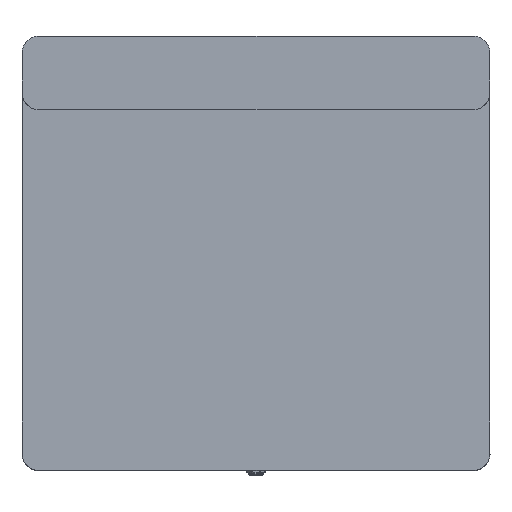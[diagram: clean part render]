
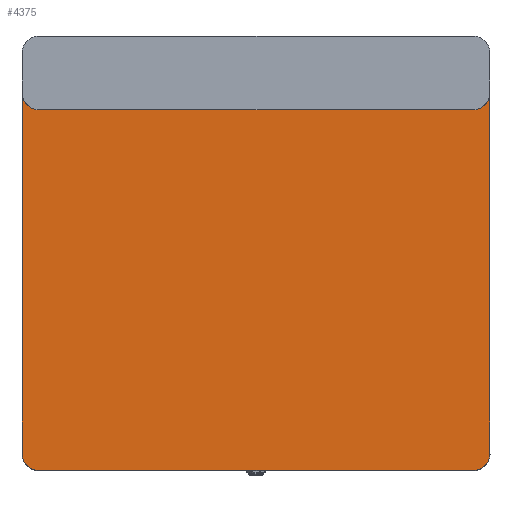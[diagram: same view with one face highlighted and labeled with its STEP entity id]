
A CAD part, front view. The second image highlights one B-rep face of the part: STEP entity #4375.
In plain terms, the highlighted planar face has unit normal (0, -1, 0) as drawn and (0, 0, 1) by its records, which use the part's own axes.
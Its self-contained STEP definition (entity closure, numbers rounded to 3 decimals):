
#239=CIRCLE('',#4804,24.5);
#240=CIRCLE('',#4806,25.);
#241=CIRCLE('',#4807,24.5);
#242=CIRCLE('',#4808,25.);
#453=FACE_OUTER_BOUND('',#703,.T.);
#703=EDGE_LOOP('',(#3026,#3027,#3028,#3029,#3030,#3031,#3032,#3033));
#1005=LINE('',#6553,#1457);
#1024=LINE('',#6612,#1476);
#1025=LINE('',#6616,#1477);
#1026=LINE('',#6619,#1478);
#1457=VECTOR('',#5243,1000.);
#1476=VECTOR('',#5306,1000.);
#1477=VECTOR('',#5309,1000.);
#1478=VECTOR('',#5312,1000.);
#1917=VERTEX_POINT('',#6550);
#1918=VERTEX_POINT('',#6552);
#1934=VERTEX_POINT('',#6606);
#1935=VERTEX_POINT('',#6610);
#1936=VERTEX_POINT('',#6611);
#1937=VERTEX_POINT('',#6613);
#1938=VERTEX_POINT('',#6615);
#1939=VERTEX_POINT('',#6617);
#2337=EDGE_CURVE('',#1917,#1918,#1005,.T.);
#2364=EDGE_CURVE('',#1918,#1934,#239,.T.);
#2366=EDGE_CURVE('',#1935,#1936,#1024,.T.);
#2367=EDGE_CURVE('',#1936,#1937,#240,.T.);
#2368=EDGE_CURVE('',#1937,#1938,#1025,.T.);
#2369=EDGE_CURVE('',#1938,#1939,#241,.T.);
#2370=EDGE_CURVE('',#1939,#1934,#1026,.T.);
#2371=EDGE_CURVE('',#1917,#1935,#242,.T.);
#3026=ORIENTED_EDGE('',*,*,#2366,.T.);
#3027=ORIENTED_EDGE('',*,*,#2367,.T.);
#3028=ORIENTED_EDGE('',*,*,#2368,.T.);
#3029=ORIENTED_EDGE('',*,*,#2369,.T.);
#3030=ORIENTED_EDGE('',*,*,#2370,.T.);
#3031=ORIENTED_EDGE('',*,*,#2364,.F.);
#3032=ORIENTED_EDGE('',*,*,#2337,.F.);
#3033=ORIENTED_EDGE('',*,*,#2371,.T.);
#4204=PLANE('',#4805);
#4375=ADVANCED_FACE('',(#453),#4204,.T.);
#4804=AXIS2_PLACEMENT_3D('',#6607,#5301,#5302);
#4805=AXIS2_PLACEMENT_3D('',#6609,#5304,#5305);
#4806=AXIS2_PLACEMENT_3D('',#6614,#5307,#5308);
#4807=AXIS2_PLACEMENT_3D('',#6618,#5310,#5311);
#4808=AXIS2_PLACEMENT_3D('',#6620,#5313,#5314);
#5243=DIRECTION('',(0.,-1.,0.));
#5301=DIRECTION('center_axis',(0.,0.,-1.));
#5302=DIRECTION('ref_axis',(-1.,0.,0.));
#5304=DIRECTION('center_axis',(0.,0.,1.));
#5305=DIRECTION('ref_axis',(1.,0.,0.));
#5306=DIRECTION('',(-1.,0.,0.));
#5307=DIRECTION('center_axis',(0.,0.,-1.));
#5308=DIRECTION('ref_axis',(1.,0.,0.));
#5309=DIRECTION('',(0.,-1.,0.));
#5310=DIRECTION('center_axis',(0.,0.,1.));
#5311=DIRECTION('ref_axis',(-1.,0.,0.));
#5312=DIRECTION('',(1.,0.,0.));
#5313=DIRECTION('center_axis',(0.,0.,-1.));
#5314=DIRECTION('ref_axis',(1.,0.,0.));
#6550=CARTESIAN_POINT('',(620.654,-99.903,5.));
#6552=CARTESIAN_POINT('',(620.654,-634.928,5.));
#6553=CARTESIAN_POINT('',(620.654,-172.428,5.));
#6606=CARTESIAN_POINT('',(596.154,-659.428,5.));
#6607=CARTESIAN_POINT('Origin',(596.154,-634.928,5.));
#6609=CARTESIAN_POINT('Origin',(271.154,-334.928,5.));
#6610=CARTESIAN_POINT('',(596.154,-119.928,5.));
#6611=CARTESIAN_POINT('',(-53.846,-119.928,5.));
#6612=CARTESIAN_POINT('',(271.154,-119.928,5.));
#6613=CARTESIAN_POINT('',(-78.346,-99.903,5.));
#6614=CARTESIAN_POINT('Origin',(-53.846,-94.928,5.));
#6615=CARTESIAN_POINT('',(-78.346,-634.928,5.));
#6616=CARTESIAN_POINT('',(-78.346,-334.928,5.));
#6617=CARTESIAN_POINT('',(-53.846,-659.428,5.));
#6618=CARTESIAN_POINT('Origin',(-53.846,-634.928,5.));
#6619=CARTESIAN_POINT('',(271.154,-659.428,5.));
#6620=CARTESIAN_POINT('Origin',(596.154,-94.928,5.));
